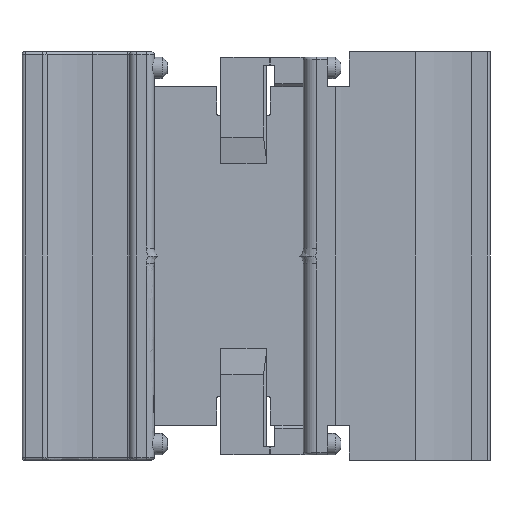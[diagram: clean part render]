
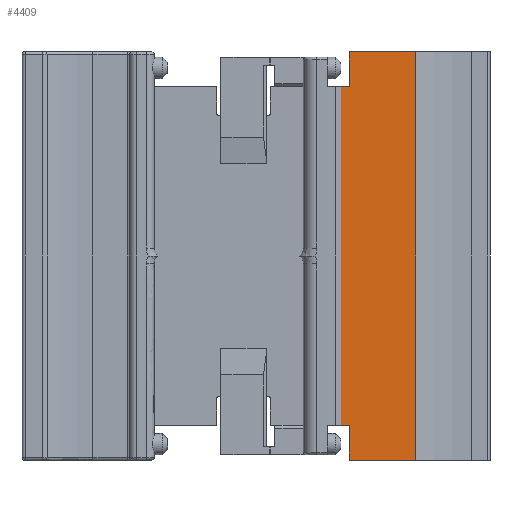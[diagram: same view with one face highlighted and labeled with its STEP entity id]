
A CAD part, front view. The second image highlights one B-rep face of the part: STEP entity #4409.
In plain terms, the highlighted planar face has unit normal (0, -1, 0).
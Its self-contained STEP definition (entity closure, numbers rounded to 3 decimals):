
#3246=CARTESIAN_POINT('',(225.561,163.797,100.));
#3247=VERTEX_POINT('',#3246);
#3248=CARTESIAN_POINT('',(225.561,163.797,106.5));
#3249=VERTEX_POINT('',#3248);
#3250=CARTESIAN_POINT('',(225.561,163.797,100.));
#3251=DIRECTION('',(0.0,0.0,1.0));
#3252=VECTOR('',#3251,6.5);
#3253=LINE('',#3250,#3252);
#3254=EDGE_CURVE('',#3247,#3249,#3253,.T.);
#3286=CARTESIAN_POINT('',(223.962,163.797,106.5));
#3287=VERTEX_POINT('',#3286);
#3288=CARTESIAN_POINT('',(225.561,163.797,106.5));
#3289=DIRECTION('',(-1.0,0.0,0.0));
#3290=VECTOR('',#3289,1.6);
#3291=LINE('',#3288,#3290);
#3292=EDGE_CURVE('',#3249,#3287,#3291,.T.);
#3539=CARTESIAN_POINT('',(238.014,163.797,100.));
#3540=VERTEX_POINT('',#3539);
#3548=CARTESIAN_POINT('',(238.014,163.797,100.));
#3549=DIRECTION('',(-1.0,0.0,0.0));
#3550=VECTOR('',#3549,12.453);
#3551=LINE('',#3548,#3550);
#3552=EDGE_CURVE('',#3540,#3247,#3551,.T.);
#4349=CARTESIAN_POINT('',(223.962,163.797,170.1));
#4350=VERTEX_POINT('',#4349);
#4351=CARTESIAN_POINT('',(223.962,163.797,106.5));
#4352=DIRECTION('',(0.0,0.0,1.0));
#4353=VECTOR('',#4352,63.6);
#4354=LINE('',#4351,#4353);
#4355=EDGE_CURVE('',#3287,#4350,#4354,.T.);
#4368=CARTESIAN_POINT('',(238.014,163.797,0.0));
#4369=DIRECTION('',(0.0,-1.0,0.0));
#4370=DIRECTION('',(0.0,0.0,-1.0));
#4371=AXIS2_PLACEMENT_3D('',#4368,#4369,#4370);
#4372=PLANE('',#4371);
#4373=CARTESIAN_POINT('',(238.014,163.797,176.6));
#4374=VERTEX_POINT('',#4373);
#4375=CARTESIAN_POINT('',(238.014,163.797,100.));
#4376=DIRECTION('',(0.0,0.0,1.0));
#4377=VECTOR('',#4376,76.6);
#4378=LINE('',#4375,#4377);
#4379=EDGE_CURVE('',#3540,#4374,#4378,.T.);
#4380=ORIENTED_EDGE('',*,*,#4379,.T.);
#4381=CARTESIAN_POINT('',(225.561,163.797,176.6));
#4382=VERTEX_POINT('',#4381);
#4383=CARTESIAN_POINT('',(238.014,163.797,176.6));
#4384=DIRECTION('',(-1.0,0.0,0.0));
#4385=VECTOR('',#4384,12.453);
#4386=LINE('',#4383,#4385);
#4387=EDGE_CURVE('',#4374,#4382,#4386,.T.);
#4388=ORIENTED_EDGE('',*,*,#4387,.T.);
#4389=CARTESIAN_POINT('',(225.561,163.797,170.1));
#4390=VERTEX_POINT('',#4389);
#4391=CARTESIAN_POINT('',(225.561,163.797,176.6));
#4392=DIRECTION('',(0.0,0.0,-1.0));
#4393=VECTOR('',#4392,6.5);
#4394=LINE('',#4391,#4393);
#4395=EDGE_CURVE('',#4382,#4390,#4394,.T.);
#4396=ORIENTED_EDGE('',*,*,#4395,.T.);
#4397=CARTESIAN_POINT('',(225.561,163.797,170.1));
#4398=DIRECTION('',(-1.0,0.0,0.0));
#4399=VECTOR('',#4398,1.6);
#4400=LINE('',#4397,#4399);
#4401=EDGE_CURVE('',#4390,#4350,#4400,.T.);
#4402=ORIENTED_EDGE('',*,*,#4401,.T.);
#4403=ORIENTED_EDGE('',*,*,#4355,.F.);
#4404=ORIENTED_EDGE('',*,*,#3292,.F.);
#4405=ORIENTED_EDGE('',*,*,#3254,.F.);
#4406=ORIENTED_EDGE('',*,*,#3552,.F.);
#4407=EDGE_LOOP('',(#4380,#4388,#4396,#4402,#4403,#4404,#4405,#4406));
#4408=FACE_OUTER_BOUND('',#4407,.T.);
#4409=ADVANCED_FACE('',(#4408),#4372,.T.);
